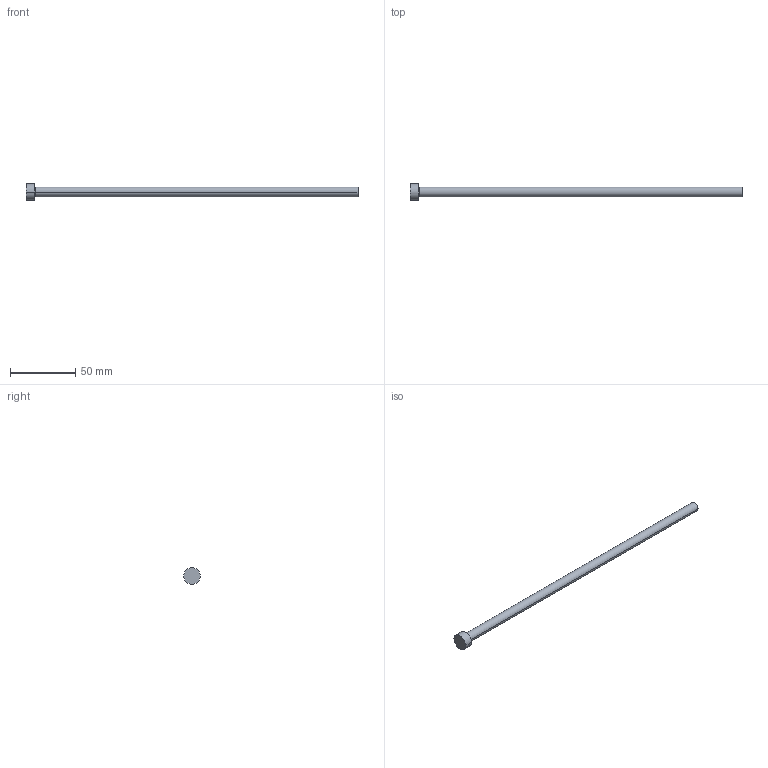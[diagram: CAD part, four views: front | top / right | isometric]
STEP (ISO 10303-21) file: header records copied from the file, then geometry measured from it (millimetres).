
FILE_DESCRIPTION (( 'STEP AP214' ), '1' );
FILE_NAME ('P20-10.STEP', '2020-03-12T09:04:18', ( '' ), ( '' ), 'SwSTEP 2.0', 'SolidWorks 2018', '' );
FILE_SCHEMA (( 'AUTOMOTIVE_DESIGN' ));
Length unit declared in the file: inch
Products named in the file (1): P20-10
Bounding box: 254 x 12.7 x 12.7 mm (x, y, z)
Volume: 11844.4 mm3; surface area: 6355.2 mm2
Topology: 1 solids, 1 shells, 13 faces, 24 edges, 14 vertices
Faces by surface type: cone 4, cylinder 4, plane 3, torus 2
Entity records: 366 total; most frequent: DIRECTION 68, CARTESIAN_POINT 52, ORIENTED_EDGE 48, AXIS2_PLACEMENT_3D 30, EDGE_CURVE 24, CIRCLE 16, EDGE_LOOP 14, VERTEX_POINT 14
